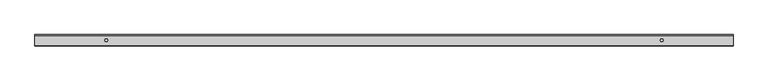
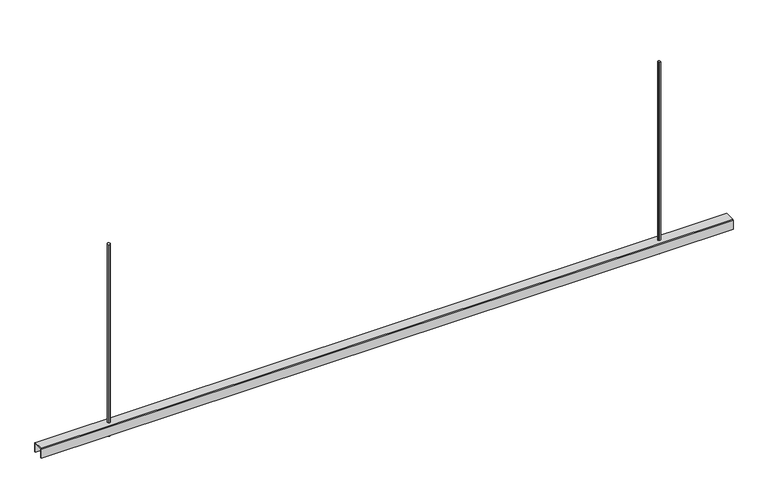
"""IFC4 building model written with IfcOpenShell, lengths in millimetres: proxy geometry, Beared-Hanger : BearedHanger."""

import ifcopenshell
import ifcopenshell.guid

model = None  # the IFC model being written
_history = None  # IfcOwnerHistory: only IFC2X3 demands one
_inside = {}  # id of a spatial element -> (the spatial element, [elements in it])
_under = {}  # id of a project, library or spatial element -> (it, [spatial elements below it])
_declared = {}  # id of a project -> (the project, [libraries it declares])
_typed = {}  # id of a type object -> (the type object, [elements of that type])
_made_of = {}  # id of a material, layer set ... -> (it, [elements and type objects made of it])


def new_model(schema):
    """Start an empty IFC model of exactly this schema.

    Asked for "IFC4X3", IfcOpenShell would pick the latest addendum, in which some entities
    have other attributes; the version numbers below select the first issue.
    IFC2X3 requires an IfcOwnerHistory on every rooted entity: one is made here for all.
    """
    global model, _history
    if schema == "IFC4X3":
        model = ifcopenshell.file(schema_version=(4, 3, 0, 0))
    else:
        model = ifcopenshell.file(schema=schema)
    _inside.clear()
    _under.clear()
    _declared.clear()
    _typed.clear()
    _made_of.clear()
    _history = None
    if model.schema == "IFC2X3":
        org = make("IfcOrganization", Name="unknown")
        user = make(
            "IfcPersonAndOrganization",
            ThePerson=make("IfcPerson", FamilyName="unknown"),
            TheOrganization=org,
        )
        app = make(
            "IfcApplication",
            ApplicationDeveloper=org,
            Version="unknown",
            ApplicationFullName="unknown",
            ApplicationIdentifier="unknown",
        )
        _history = make(
            "IfcOwnerHistory",
            OwningUser=user,
            OwningApplication=app,
            ChangeAction="ADDED",
            CreationDate=0,
        )
    return model


def make(cls, **values):
    """One entity of the class cls with the attributes given. An attribute that is None is left unset."""
    return model.create_entity(
        cls, **{name: value for name, value in values.items() if value is not None}
    )


def rooted(cls, **values):
    """An entity with a GlobalId (a new one), such as an element, a storey or a relation."""
    return make(cls, GlobalId=ifcopenshell.guid.new(), OwnerHistory=_history, **values)


def si_unit(unit_type, name, prefix=None):
    """IfcSIUnit, for example si_unit("LENGTHUNIT", "METRE", prefix="MILLI")."""
    return make("IfcSIUnit", UnitType=unit_type, Prefix=prefix, Name=name)


def assignment(units):
    """IfcUnitAssignment: the units of a project."""
    return None if units is None else make("IfcUnitAssignment", Units=units)


def point(xyz):
    """IfcCartesianPoint."""
    return None if xyz is None else make("IfcCartesianPoint", Coordinates=xyz)


def direction(xyz):
    """IfcDirection."""
    return None if xyz is None else make("IfcDirection", DirectionRatios=xyz)


def frame(location, z_axis=None, x_axis=None):
    """IfcAxis2Placement3D, a coordinate frame: its origin and axes. An axis left out is left unset."""
    return make(
        "IfcAxis2Placement3D",
        Location=point(location),
        Axis=direction(z_axis),
        RefDirection=direction(x_axis),
    )


def origin():
    """The frame at (0, 0, 0) with its axes left unset."""
    return frame((0.0, 0.0, 0.0))


def place(relative_to, where):
    """IfcLocalPlacement: puts the frame where relative to a parent placement (None: the world)."""
    return make(
        "IfcLocalPlacement", PlacementRelTo=relative_to, RelativePlacement=where
    )


def context(
    kind, dimensions, precision=None, world=None, true_north=None, identifier=None
):
    """IfcGeometricRepresentationContext, for example the 3D "Model" context."""
    return make(
        "IfcGeometricRepresentationContext",
        ContextIdentifier=identifier,
        ContextType=kind,
        CoordinateSpaceDimension=dimensions,
        Precision=precision,
        WorldCoordinateSystem=world,
        TrueNorth=true_north,
    )


def project(units=None, contexts=None):
    """IfcProject with its units and contexts."""
    return rooted(
        "IfcProject",
        Name="project",
        RepresentationContexts=contexts,
        UnitsInContext=assignment(units),
    )


def spatial(cls, under=None, at=None, **own):
    """A site, building, storey or space (cls), placed at a placement, below another one or the project."""
    s = rooted(cls, ObjectPlacement=at, **own)
    if under is not None:
        _under.setdefault(under.id(), (under, []))[1].append(s)
    return s


def polyline(points):
    """IfcPolyline through the points."""
    return make("IfcPolyline", Points=[point(p) for p in points])


def outline(outer, holes=None, kind="AREA"):
    """IfcArbitraryClosedProfileDef: a profile drawn as a closed curve; with holes, ...WithVoids."""
    if holes is None:
        return make("IfcArbitraryClosedProfileDef", ProfileType=kind, OuterCurve=outer)
    return make(
        "IfcArbitraryProfileDefWithVoids",
        ProfileType=kind,
        OuterCurve=outer,
        InnerCurves=holes,
    )


def extrude(swept, where, along, depth):
    """IfcExtrudedAreaSolid: the profile swept, set in the frame where, extruded along a direction by depth."""
    return make(
        "IfcExtrudedAreaSolid",
        SweptArea=swept,
        Position=where,
        ExtrudedDirection=direction(along),
        Depth=depth,
    )


def shape(context_of_items, identifier, shape_type, items):
    """IfcShapeRepresentation: the items that make up one representation, for example the "Body"."""
    return make(
        "IfcShapeRepresentation",
        ContextOfItems=context_of_items,
        RepresentationIdentifier=identifier,
        RepresentationType=shape_type,
        Items=items,
    )


def source(mapping_origin, context_of_items, identifier, shape_type, items):
    """IfcRepresentationMap: a shape defined once, which mapped items show again and again."""
    return make(
        "IfcRepresentationMap",
        MappingOrigin=mapping_origin,
        MappedRepresentation=shape(context_of_items, identifier, shape_type, items),
    )


def transform(
    local_origin,
    x_axis=None,
    y_axis=None,
    z_axis=None,
    scale=None,
    scale2=None,
    scale3=None,
    uniform=True,
):
    """IfcCartesianTransformationOperator3D, or its non-uniform kind. x_axis, y_axis, z_axis: its Axis1, 2, 3."""
    if uniform:
        return make(
            "IfcCartesianTransformationOperator3D",
            Axis1=direction(x_axis),
            Axis2=direction(y_axis),
            LocalOrigin=point(local_origin),
            Scale=scale,
            Axis3=direction(z_axis),
        )
    return make(
        "IfcCartesianTransformationOperator3DnonUniform",
        Axis1=direction(x_axis),
        Axis2=direction(y_axis),
        LocalOrigin=point(local_origin),
        Scale=scale,
        Axis3=direction(z_axis),
        Scale2=scale2,
        Scale3=scale3,
    )


def mapped(mapping_source, mapping_target):
    """IfcMappedItem: shows the shape of a source again, moved by a transform."""
    return make(
        "IfcMappedItem", MappingSource=mapping_source, MappingTarget=mapping_target
    )


def made_of(thing, what):
    """Note that an element or type object is made of a material, layer set ...; save() writes the relation."""
    if what is not None:
        _made_of.setdefault(what.id(), (what, []))[1].append(thing)
    return thing


def element(
    cls,
    number,
    at=None,
    inside=None,
    cuts=None,
    type_object=None,
    material=None,
    context=None,
    identifier="Body",
    shape_type=None,
    held_by="IfcProductDefinitionShape",
    body=None,
    shapes=None,
    **own,
):
    """One element of the class cls, such as IfcWall. Its Tag is "e" and its number.

    at: its placement. inside: the storey or other place that contains it. cuts: it is an
    opening in that element (IfcRelVoidsElement). A single representation is given by context,
    identifier, shape_type and body (its items); several are given by shapes. held_by: the class
    of the entity that holds the representations. save() writes the other relations.
    """
    e = rooted(cls, Tag="e%d" % number, ObjectPlacement=at, **own)
    if body is not None:
        shapes = [shape(context, identifier, shape_type, body)]
    if shapes is not None:
        e.Representation = make(held_by, Representations=shapes)
    if inside is not None:
        _inside.setdefault(inside.id(), (inside, []))[1].append(e)
    if cuts is not None:
        rooted(
            "IfcRelVoidsElement", RelatingBuildingElement=cuts, RelatedOpeningElement=e
        )
    if type_object is not None:
        _typed.setdefault(type_object.id(), (type_object, []))[1].append(e)
    return made_of(e, material)


def aggregate(whole, parts):
    """IfcRelAggregates: a whole, such as a stair, and the parts it consists of."""
    return rooted("IfcRelAggregates", RelatingObject=whole, RelatedObjects=parts)


def save(model, path):
    """Write the relations noted so far, then the file.

    IfcRelAggregates (storeys below a building ...), IfcRelContainedInSpatialStructure (elements
    in a storey), IfcRelDefinesByType, IfcRelAssociatesMaterial and IfcRelDeclares: one each for
    every whole, place, type object, material and project.
    """
    for whole, parts in _under.values():
        aggregate(whole, parts)
    for where, things in _inside.values():
        rooted(
            "IfcRelContainedInSpatialStructure",
            RelatedElements=things,
            RelatingStructure=where,
        )
    for kind, things in _typed.values():
        rooted("IfcRelDefinesByType", RelatedObjects=things, RelatingType=kind)
    for what, things in _made_of.values():
        rooted("IfcRelAssociatesMaterial", RelatedObjects=things, RelatingMaterial=what)
    for by, libraries in _declared.values():
        rooted("IfcRelDeclares", RelatingContext=by, RelatedDefinitions=libraries)
    model.write(path)


def mechanical_equipment_c1f41828(model_context):
    return source(origin(), model_context, "Body", "SweptSolid", [
        extrude(outline(polyline([(962.5202942, -17.3962402), (962.5202942, 16.7883301), (992.3371887, 16.7883301), (992.3371887, -17.3962402), (962.5202942, -17.3962402)])), frame((0.0, 0.0, -705.597892), z_axis=(0.0, 0.0, 1.0), x_axis=(1.0, 0.0, 0.0)), (0.0, 0.0, 1.0), 10.0),
        extrude(outline(polyline([(977.4287415, 5.0), (980.9638977, 3.5351562), (982.4293518, 0.0), (980.9638977, -3.5351563), (977.4287415, -5.0), (973.8935852, -3.5351563), (972.4287415, 0.0), (973.8935852, 3.5351562), (977.4287415, 5.0)])), frame((0.0, 0.0, -719.1824867), z_axis=(0.0, 0.0, 1.0), x_axis=(1.0, 0.0, 0.0)), (0.0, 0.0, 1.0), 719.1824867),
        extrude(outline(polyline([(-962.5202942, 16.7883301), (-962.5202942, -17.3962402), (-992.3371887, -17.3962402), (-992.3371887, 16.7883301), (-962.5202942, 16.7883301)])), frame((0.0, 0.0, -705.597892), z_axis=(0.0, 0.0, 1.0), x_axis=(1.0, 0.0, 0.0)), (0.0, 0.0, 1.0), 10.0),
        extrude(outline(polyline([(-977.4287415, 5.0), (-973.8935852, 3.5351563), (-972.4287415, 0.0), (-973.8935852, -3.5351562), (-977.4287415, -5.0), (-980.9638977, -3.5351562), (-982.4293518, 0.0), (-980.9638977, 3.5351563), (-977.4287415, 5.0)])), frame((0.0, 0.0, -719.1824867), z_axis=(0.0, 0.0, 1.0), x_axis=(1.0, 0.0, 0.0)), (0.0, 0.0, 1.0), 719.1824867),
        extrude(outline(polyline([(-17.8259277, -669.1824867), (17.1740723, -669.1824867), (19.6740723, -671.6821815), (19.6740723, -705.597892), (16.7883301, -705.597892), (16.7883301, -672.1823646), (-17.3962402, -672.1823646), (-17.3962402, -705.597892), (-20.3259277, -705.597892), (-20.3259277, -671.6821815), (-17.8259277, -669.1824867)])), frame((-1228.5842896, 0.0, 0.0), z_axis=(1.0, 0.0, 0.0), x_axis=(0.0, 1.0, 0.0)), (0.0, 0.0, 1.0), 2457.1685791),
    ])


if __name__ == "__main__":
    model = new_model("IFC4")
    model_context = context("Model", 3, world=origin())
    ifc_project = project(units=[si_unit("LENGTHUNIT", "METRE", prefix="MILLI")], contexts=[model_context])
    site = spatial("IfcSite", under=ifc_project)
    building = spatial("IfcBuilding", under=site)
    placement = place(None, origin())
    mechanical_equipment_shape = mechanical_equipment_c1f41828(model_context)
    element("IfcBuildingElementProxy", 1, Name="Beared-Hanger : BearedHanger", ObjectType="Beared-Hanger : BearedHanger", at=placement, inside=building, context=model_context, shape_type="MappedRepresentation", body=[
        mapped(mechanical_equipment_shape, transform((0.0, 0.0, 0.0), x_axis=(1.0, 0.0, 0.0), y_axis=(0.0, 1.0, 0.0), z_axis=(0.0, 0.0, 1.0))),
    ])
    save(model, "model.ifc")
